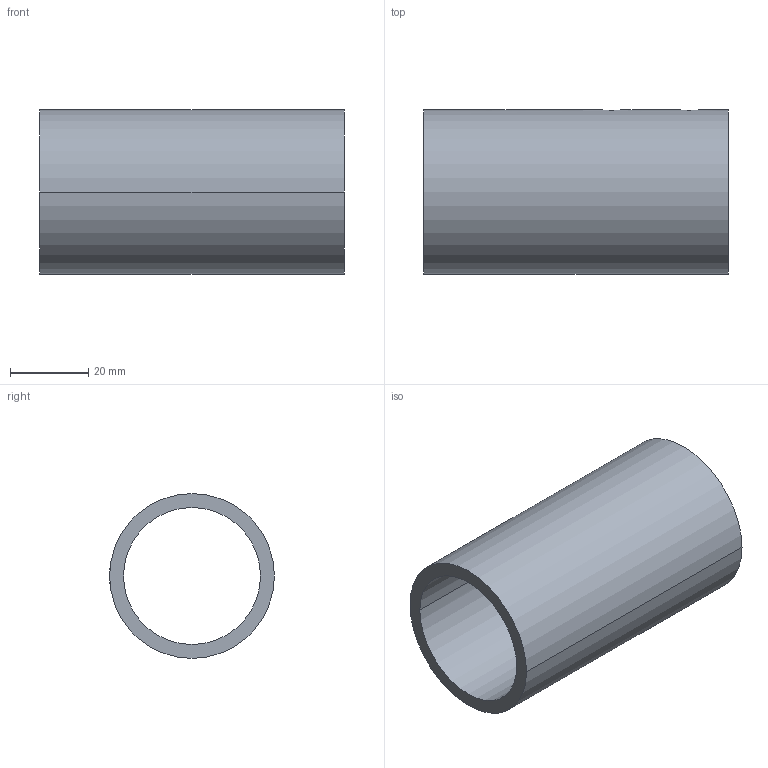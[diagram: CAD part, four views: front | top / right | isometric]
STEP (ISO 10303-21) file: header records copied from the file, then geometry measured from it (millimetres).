
FILE_DESCRIPTION(/* description */ ('VariCAD 2010-3.03 AP-214'),/* implementation_level */ '2;1');
FILE_NAME(/* name */ '0353-22-123',/* time_stamp */ '2011-06-28T22:35:18-06:00',/* author */ (''),/* organization */ (''),/* preprocessor_version */ 'ST-DEVELOPER v12',/* originating_system */ 'VariCAD 2010-3.03; kernel version (20100102)',/* authorisation */ '');
FILE_SCHEMA (('AUTOMOTIVE_DESIGN'));
Length unit declared in the file: millimetre
Products named in the file (1): Part
Bounding box: 78 x 42.16 x 42.16 mm (x, y, z)
Volume: 33442 mm3; surface area: 19805.5 mm2
Topology: 1 solids, 1 shells, 10 faces, 28 edges, 16 vertices
Faces by surface type: cylinder 8, plane 2
Entity records: 472 total; most frequent: CARTESIAN_POINT 160, ORIENTED_EDGE 56, DIRECTION 52, EDGE_CURVE 28, AXIS2_PLACEMENT_3D 20, VERTEX_POINT 16, EDGE_LOOP 12, LINE 12
